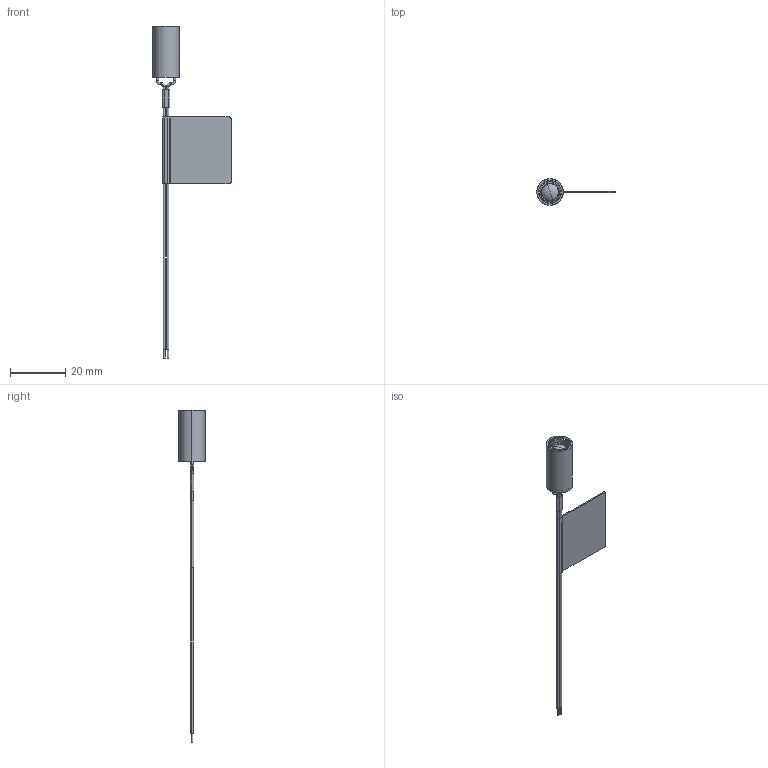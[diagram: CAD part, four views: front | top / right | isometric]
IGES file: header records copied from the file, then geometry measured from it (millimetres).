
Start section: SolidWorks IGES file using analytic representation for surfaces
Global section: file name: N:\POR\Public\PLMProductInfo\VLM ULN\VLM3-5L VLM3-1L VLM3.5-2\VLM3-5L VLM3-1L VLM3.5-2.IGS; native system: SolidWorks 2019; preprocessor: SolidWorks 2019; author: LewisD; date: 200109.094746; units: inch
Bounding box: 28.28 x 9.53 x 119.94 mm (x, y, z)
Surface area: 3004.5 mm2 (no closed solid volume)
Topology: 0 solids, 0 shells, 174 faces, 1690 edges, 1687 vertices
Faces by surface type: bspline 115, revolution 59
